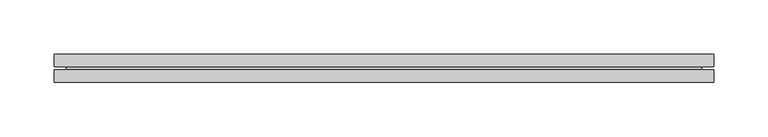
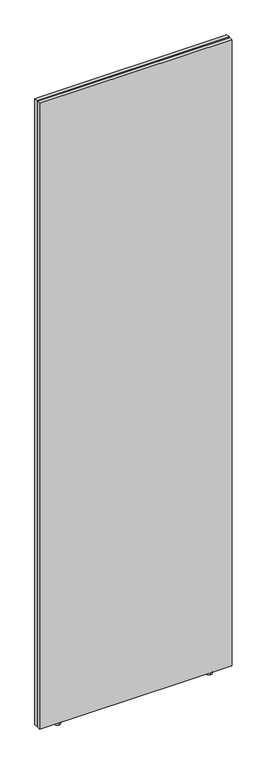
"""IFC4 building model written with IfcOpenShell, lengths in millimetres: furniture geometry, Geiger_GeigerOneCasegoods_WallFrameStandardApplication : 24Wx1Dx82.5H."""

import ifcopenshell
import ifcopenshell.guid

model = None  # the IFC model being written
_history = None  # IfcOwnerHistory: only IFC2X3 demands one
_inside = {}  # id of a spatial element -> (the spatial element, [elements in it])
_under = {}  # id of a project, library or spatial element -> (it, [spatial elements below it])
_declared = {}  # id of a project -> (the project, [libraries it declares])
_typed = {}  # id of a type object -> (the type object, [elements of that type])
_made_of = {}  # id of a material, layer set ... -> (it, [elements and type objects made of it])


def new_model(schema):
    """Start an empty IFC model of exactly this schema.

    Asked for "IFC4X3", IfcOpenShell would pick the latest addendum, in which some entities
    have other attributes; the version numbers below select the first issue.
    IFC2X3 requires an IfcOwnerHistory on every rooted entity: one is made here for all.
    """
    global model, _history
    if schema == "IFC4X3":
        model = ifcopenshell.file(schema_version=(4, 3, 0, 0))
    else:
        model = ifcopenshell.file(schema=schema)
    _inside.clear()
    _under.clear()
    _declared.clear()
    _typed.clear()
    _made_of.clear()
    _history = None
    if model.schema == "IFC2X3":
        org = make("IfcOrganization", Name="unknown")
        user = make(
            "IfcPersonAndOrganization",
            ThePerson=make("IfcPerson", FamilyName="unknown"),
            TheOrganization=org,
        )
        app = make(
            "IfcApplication",
            ApplicationDeveloper=org,
            Version="unknown",
            ApplicationFullName="unknown",
            ApplicationIdentifier="unknown",
        )
        _history = make(
            "IfcOwnerHistory",
            OwningUser=user,
            OwningApplication=app,
            ChangeAction="ADDED",
            CreationDate=0,
        )
    return model


def make(cls, **values):
    """One entity of the class cls with the attributes given. An attribute that is None is left unset."""
    return model.create_entity(
        cls, **{name: value for name, value in values.items() if value is not None}
    )


def rooted(cls, **values):
    """An entity with a GlobalId (a new one), such as an element, a storey or a relation."""
    return make(cls, GlobalId=ifcopenshell.guid.new(), OwnerHistory=_history, **values)


def si_unit(unit_type, name, prefix=None):
    """IfcSIUnit, for example si_unit("LENGTHUNIT", "METRE", prefix="MILLI")."""
    return make("IfcSIUnit", UnitType=unit_type, Prefix=prefix, Name=name)


def assignment(units):
    """IfcUnitAssignment: the units of a project."""
    return None if units is None else make("IfcUnitAssignment", Units=units)


def point(xyz):
    """IfcCartesianPoint."""
    return None if xyz is None else make("IfcCartesianPoint", Coordinates=xyz)


def direction(xyz):
    """IfcDirection."""
    return None if xyz is None else make("IfcDirection", DirectionRatios=xyz)


def frame(location, z_axis=None, x_axis=None):
    """IfcAxis2Placement3D, a coordinate frame: its origin and axes. An axis left out is left unset."""
    return make(
        "IfcAxis2Placement3D",
        Location=point(location),
        Axis=direction(z_axis),
        RefDirection=direction(x_axis),
    )


def origin():
    """The frame at (0, 0, 0) with its axes left unset."""
    return frame((0.0, 0.0, 0.0))


def place(relative_to, where):
    """IfcLocalPlacement: puts the frame where relative to a parent placement (None: the world)."""
    return make(
        "IfcLocalPlacement", PlacementRelTo=relative_to, RelativePlacement=where
    )


def context(
    kind, dimensions, precision=None, world=None, true_north=None, identifier=None
):
    """IfcGeometricRepresentationContext, for example the 3D "Model" context."""
    return make(
        "IfcGeometricRepresentationContext",
        ContextIdentifier=identifier,
        ContextType=kind,
        CoordinateSpaceDimension=dimensions,
        Precision=precision,
        WorldCoordinateSystem=world,
        TrueNorth=true_north,
    )


def project(units=None, contexts=None):
    """IfcProject with its units and contexts."""
    return rooted(
        "IfcProject",
        Name="project",
        RepresentationContexts=contexts,
        UnitsInContext=assignment(units),
    )


def spatial(cls, under=None, at=None, **own):
    """A site, building, storey or space (cls), placed at a placement, below another one or the project."""
    s = rooted(cls, ObjectPlacement=at, **own)
    if under is not None:
        _under.setdefault(under.id(), (under, []))[1].append(s)
    return s


def circle_curve(where, radius):
    """IfcCircle in the frame where."""
    return make("IfcCircle", Position=where, Radius=radius)


def ellipse_curve(where, semi_axis1, semi_axis2):
    """IfcEllipse in the frame where."""
    return make(
        "IfcEllipse", Position=where, SemiAxis1=semi_axis1, SemiAxis2=semi_axis2
    )


def trimmed(basis, trim1, trim2, sense, master):
    """IfcTrimmedCurve: the piece of a basis curve between two trims."""
    return make(
        "IfcTrimmedCurve",
        BasisCurve=basis,
        Trim1=trim1,
        Trim2=trim2,
        SenseAgreement=sense,
        MasterRepresentation=master,
    )


def faces_of(points, faces, orient=None, outer=None):
    """IfcFace entities. A face is a list of loops; a loop is a list of indices into points, from 0.

    orient and outer hold one flag for each loop. By default every Orientation is true, the
    first loop of a face is its IfcFaceOuterBound and the others are IfcFaceBound.
    """
    made = []
    for i, loops in enumerate(faces):
        bounds = []
        for j, loop in enumerate(loops):
            is_outer = j == 0 if outer is None else outer[i][j]
            bounds.append(
                make(
                    "IfcFaceOuterBound" if is_outer else "IfcFaceBound",
                    Bound=make("IfcPolyLoop", Polygon=[points[k] for k in loop]),
                    Orientation=True if orient is None else orient[i][j],
                )
            )
        made.append(make("IfcFace", Bounds=bounds))
    return made


def faceted_brep(points, faces, orient=None, outer=None, voids=None):
    """IfcFacetedBrep: a solid bounded by flat faces; with voids (closed shells), ...WithVoids."""
    shared = [point(p) for p in points]
    hull = make("IfcClosedShell", CfsFaces=faces_of(shared, faces, orient, outer))
    if voids is None:
        return make("IfcFacetedBrep", Outer=hull)
    return make(
        "IfcFacetedBrepWithVoids",
        Outer=hull,
        Voids=[
            make(cls, CfsFaces=faces_of(shared, fs, o, b)) for cls, fs, o, b in voids
        ],
    )


def shape(context_of_items, identifier, shape_type, items):
    """IfcShapeRepresentation: the items that make up one representation, for example the "Body"."""
    return make(
        "IfcShapeRepresentation",
        ContextOfItems=context_of_items,
        RepresentationIdentifier=identifier,
        RepresentationType=shape_type,
        Items=items,
    )


def source(mapping_origin, context_of_items, identifier, shape_type, items):
    """IfcRepresentationMap: a shape defined once, which mapped items show again and again."""
    return make(
        "IfcRepresentationMap",
        MappingOrigin=mapping_origin,
        MappedRepresentation=shape(context_of_items, identifier, shape_type, items),
    )


def transform(
    local_origin,
    x_axis=None,
    y_axis=None,
    z_axis=None,
    scale=None,
    scale2=None,
    scale3=None,
    uniform=True,
):
    """IfcCartesianTransformationOperator3D, or its non-uniform kind. x_axis, y_axis, z_axis: its Axis1, 2, 3."""
    if uniform:
        return make(
            "IfcCartesianTransformationOperator3D",
            Axis1=direction(x_axis),
            Axis2=direction(y_axis),
            LocalOrigin=point(local_origin),
            Scale=scale,
            Axis3=direction(z_axis),
        )
    return make(
        "IfcCartesianTransformationOperator3DnonUniform",
        Axis1=direction(x_axis),
        Axis2=direction(y_axis),
        LocalOrigin=point(local_origin),
        Scale=scale,
        Axis3=direction(z_axis),
        Scale2=scale2,
        Scale3=scale3,
    )


def mapped(mapping_source, mapping_target):
    """IfcMappedItem: shows the shape of a source again, moved by a transform."""
    return make(
        "IfcMappedItem", MappingSource=mapping_source, MappingTarget=mapping_target
    )


def made_of(thing, what):
    """Note that an element or type object is made of a material, layer set ...; save() writes the relation."""
    if what is not None:
        _made_of.setdefault(what.id(), (what, []))[1].append(thing)
    return thing


def element(
    cls,
    number,
    at=None,
    inside=None,
    cuts=None,
    type_object=None,
    material=None,
    context=None,
    identifier="Body",
    shape_type=None,
    held_by="IfcProductDefinitionShape",
    body=None,
    shapes=None,
    **own,
):
    """One element of the class cls, such as IfcWall. Its Tag is "e" and its number.

    at: its placement. inside: the storey or other place that contains it. cuts: it is an
    opening in that element (IfcRelVoidsElement). A single representation is given by context,
    identifier, shape_type and body (its items); several are given by shapes. held_by: the class
    of the entity that holds the representations. save() writes the other relations.
    """
    e = rooted(cls, Tag="e%d" % number, ObjectPlacement=at, **own)
    if body is not None:
        shapes = [shape(context, identifier, shape_type, body)]
    if shapes is not None:
        e.Representation = make(held_by, Representations=shapes)
    if inside is not None:
        _inside.setdefault(inside.id(), (inside, []))[1].append(e)
    if cuts is not None:
        rooted(
            "IfcRelVoidsElement", RelatingBuildingElement=cuts, RelatedOpeningElement=e
        )
    if type_object is not None:
        _typed.setdefault(type_object.id(), (type_object, []))[1].append(e)
    return made_of(e, material)


def aggregate(whole, parts):
    """IfcRelAggregates: a whole, such as a stair, and the parts it consists of."""
    return rooted("IfcRelAggregates", RelatingObject=whole, RelatedObjects=parts)


def save(model, path):
    """Write the relations noted so far, then the file.

    IfcRelAggregates (storeys below a building ...), IfcRelContainedInSpatialStructure (elements
    in a storey), IfcRelDefinesByType, IfcRelAssociatesMaterial and IfcRelDeclares: one each for
    every whole, place, type object, material and project.
    """
    for whole, parts in _under.values():
        aggregate(whole, parts)
    for where, things in _inside.values():
        rooted(
            "IfcRelContainedInSpatialStructure",
            RelatedElements=things,
            RelatingStructure=where,
        )
    for kind, things in _typed.values():
        rooted("IfcRelDefinesByType", RelatedObjects=things, RelatingType=kind)
    for what, things in _made_of.values():
        rooted("IfcRelAssociatesMaterial", RelatedObjects=things, RelatingMaterial=what)
    for by, libraries in _declared.values():
        rooted("IfcRelDeclares", RelatingContext=by, RelatedDefinitions=libraries)
    model.write(path)


def plane_surface(at):
    """IfcPlane: the flat surface through the origin of the frame at, square to its z axis."""
    return make("IfcPlane", Position=at)


def cylinder_surface(at, radius):
    """IfcCylindricalSurface: all points at the distance radius from the z axis of the frame at."""
    return make("IfcCylindricalSurface", Position=at, Radius=radius)


def revolved_surface(curve, axis_point, axis_direction):
    """IfcSurfaceOfRevolution: the curve turned about the line through axis_point along axis_direction."""
    return make(
        "IfcSurfaceOfRevolution",
        SweptCurve=make("IfcArbitraryOpenProfileDef", ProfileType="CURVE", Curve=curve),
        AxisPosition=make("IfcAxis1Placement", Location=point(axis_point), Axis=direction(axis_direction)),
    )


def advanced_brep(points, edges, surfaces, faces):
    """IfcAdvancedBrep: a solid bounded by faces that lie on surfaces and meet in shared edges.

    An edge is (start, end): straight between two places in points (the first is 0);
    or (start, end, curve); or (start, end, curve, False) where it runs against its curve.
    A face is (place in surfaces, loops), or (place, loops, False) where it looks against
    its surface's normal. A loop lists edges by number (the first is 1), with a minus sign
    where the edge is run from its end to its start. The first loop is the outer one.
    """
    corners = [point(p) for p in points]
    vertices = [make("IfcVertexPoint", VertexGeometry=c) for c in corners]
    made = []
    for start, end, *more in edges:
        made.append(
            make(
                "IfcEdgeCurve",
                EdgeStart=vertices[start],
                EdgeEnd=vertices[end],
                EdgeGeometry=more[0] if more else make("IfcPolyline", Points=[corners[start], corners[end]]),
                SameSense=more[1] if len(more) > 1 else True,
            )
        )
    hull = []
    for where, loops, *sense in faces:
        bounds = []
        for j, loop in enumerate(loops):
            ring = [make("IfcOrientedEdge", EdgeElement=made[abs(k) - 1], Orientation=k > 0) for k in loop]
            bounds.append(
                make(
                    "IfcFaceOuterBound" if j == 0 else "IfcFaceBound",
                    Bound=make("IfcEdgeLoop", EdgeList=ring),
                    Orientation=True,
                )
            )
        hull.append(make("IfcAdvancedFace", Bounds=bounds, FaceSurface=surfaces[where], SameSense=sense[0] if sense else True))
    return make("IfcAdvancedBrep", Outer=make("IfcClosedShell", CfsFaces=hull))


def furniture_a66f4f8e(model_context):
    return source(origin(), model_context, "Body", "SolidModel", [
        faceted_brep([(609.6, -26.0, 12.7), (609.6, -26.0, 2108.2), (0.0, -26.0, 2108.2), (0.0, -26.0, 12.7), (609.6, 0.0, 2108.2), (609.6, 0.0, 12.7), (0.0, 0.0, 12.7), (0.0, 0.0, 2108.2), (609.6, -14.5, 2108.2), (609.6, -14.5, 12.7), (598.6, -11.5, 2097.2), (598.6, -14.5, 2097.2), (598.6, -14.5, 23.7), (598.6, -11.5, 23.7), (609.6, -11.5, 2108.2), (609.6, -11.5, 12.7), (0.0, -14.5, 12.7), (11.0, -14.5, 23.7), (11.0, -11.5, 23.7), (0.0, -11.5, 12.7), (0.0, -14.5, 2108.2), (11.0, -14.5, 2097.2), (11.0, -11.5, 2097.2), (0.0, -11.5, 2108.2)], [[[0, 1, 2, 3]], [[4, 5, 6, 7]], [[8, 1, 0, 9]], [[10, 11, 12, 13]], [[4, 14, 15, 5]], [[9, 0, 3, 16]], [[13, 12, 17, 18]], [[5, 15, 19, 6]], [[16, 3, 2, 20]], [[18, 17, 21, 22]], [[6, 19, 23, 7]], [[1, 8, 20, 2]], [[8, 9, 16, 20], [12, 11, 21, 17]], [[11, 10, 22, 21]], [[15, 14, 23, 19], [10, 13, 18, 22]], [[14, 4, 7, 23]]]),
        advanced_brep(
        [(545.6, -13.0, 0.0), (545.6, -8.2612423, 0.0), (545.6, -17.7387577, 0.0), (545.6, -7.1362597, 9.4), (545.6, -18.8637403, 9.4), (545.6, -5.75, 9.4), (545.6, -20.25, 9.4), (545.6, -5.75, 12.7), (545.6, -20.25, 12.7), (545.6, -13.0, 12.7)],
        [
            (0, 1),
            (1, 2, circle_curve(frame((545.6, -13.0, 0.0), z_axis=(0.0, 0.0, -1.0), x_axis=(0.0, 1.0, 0.0)), 4.7387577)),
            (2, 0),
            (2, 1, circle_curve(frame((545.6, -13.0, 0.0), z_axis=(0.0, 0.0, -1.0), x_axis=(0.0, 1.0, 0.0)), 4.7387577)),
            (1, 3, circle_curve(frame((545.6, -8.2612423, 4.7673184), z_axis=(1.0, 0.0, 0.0), x_axis=(0.0, 1.0, 0.0)), 4.7673184)),
            (3, 4, circle_curve(frame((545.6, -13.0, 9.4), z_axis=(0.0, 0.0, -1.0), x_axis=(0.0, 1.0, 0.0)), 5.8637403)),
            (4, 2, circle_curve(frame((545.6, -17.7387577, 4.7673184), z_axis=(1.0, 0.0, 0.0), x_axis=(0.0, -1.0, 0.0)), 4.7673184)),
            (4, 3, circle_curve(frame((545.6, -13.0, 9.4), z_axis=(0.0, 0.0, -1.0), x_axis=(0.0, 1.0, 0.0)), 5.8637403)),
            (3, 5),
            (5, 6, circle_curve(frame((545.6, -13.0, 9.4), z_axis=(0.0, 0.0, -1.0), x_axis=(0.0, 1.0, 0.0)), 7.25)),
            (6, 4),
            (6, 5, circle_curve(frame((545.6, -13.0, 9.4), z_axis=(0.0, 0.0, -1.0), x_axis=(0.0, 1.0, 0.0)), 7.25)),
            (5, 7),
            (7, 8, circle_curve(frame((545.6, -13.0, 12.7), z_axis=(0.0, 0.0, -1.0), x_axis=(0.0, 1.0, 0.0)), 7.25)),
            (8, 6),
            (8, 7, circle_curve(frame((545.6, -13.0, 12.7), z_axis=(0.0, 0.0, -1.0), x_axis=(0.0, 1.0, 0.0)), 7.25)),
            (7, 9),
            (9, 8),
        ],
        [
            plane_surface(frame((545.6, -13.0, 0.0), z_axis=(0.0, 0.0, -1.0), x_axis=(0.0, 1.0, 0.0))),
            revolved_surface(trimmed(ellipse_curve(frame((545.6, -8.2612423, 4.7673184), z_axis=(-1.0, 0.0, 0.0), x_axis=(0.0, 1.0, 0.0)), 4.7673184, 4.7673184), [point((545.6, -7.1362597, 9.4))], [point((545.6, -8.2612423, 0.0))], True, "CARTESIAN"), (545.6, -13.0, 0.0), (0.0, 0.0, -1.0)),
            plane_surface(frame((545.6, -13.0, 9.4), z_axis=(0.0, 0.0, -1.0), x_axis=(0.0, 1.0, 0.0))),
            cylinder_surface(frame((545.6, -13.0, 0.0), z_axis=(0.0, 0.0, -1.0), x_axis=(0.0, 1.0, 0.0)), 7.25),
            plane_surface(frame((545.6, -13.0, 12.7), z_axis=(0.0, 0.0, 1.0), x_axis=(0.0, 1.0, 0.0))),
        ],
        [
            (0, [[1, 2, 3]]),
            (0, [[-3, 4, -1]]),
            (1, [[-2, 5, 6, 7]]),
            (1, [[-4, -7, 8, -5]]),
            (2, [[-6, 9, 10, 11]]),
            (2, [[-8, -11, 12, -9]]),
            (3, [[-10, 13, 14, 15]]),
            (3, [[-12, -15, 16, -13]]),
            (4, [[-14, 17, 18]]),
            (4, [[-16, -18, -17]]),
        ],
    ),
        advanced_brep(
        [(64.0, -17.7387577, 0.0), (64.0, -8.2612423, 0.0), (64.0, -13.0, 0.0), (64.0, -18.8637403, 9.4), (64.0, -7.1362597, 9.4), (64.0, -20.25, 9.4), (64.0, -5.75, 9.4), (64.0, -20.25, 12.7), (64.0, -5.75, 12.7), (64.0, -13.0, 12.7)],
        [
            (0, 1, circle_curve(frame((64.0, -13.0, 0.0), z_axis=(0.0, 0.0, -1.0), x_axis=(0.0, 1.0, 0.0)), 4.7387577)),
            (1, 2),
            (2, 0),
            (1, 0, circle_curve(frame((64.0, -13.0, 0.0), z_axis=(0.0, 0.0, -1.0), x_axis=(0.0, 1.0, 0.0)), 4.7387577)),
            (3, 4, circle_curve(frame((64.0, -13.0, 9.4), z_axis=(0.0, 0.0, -1.0), x_axis=(0.0, 1.0, 0.0)), 5.8637403)),
            (4, 1, circle_curve(frame((64.0, -8.2612423, 4.7673184), z_axis=(-1.0, 0.0, 0.0), x_axis=(0.0, 1.0, 0.0)), 4.7673184)),
            (0, 3, circle_curve(frame((64.0, -17.7387577, 4.7673184), z_axis=(-1.0, 0.0, 0.0), x_axis=(0.0, -1.0, 0.0)), 4.7673184)),
            (4, 3, circle_curve(frame((64.0, -13.0, 9.4), z_axis=(0.0, 0.0, -1.0), x_axis=(0.0, 1.0, 0.0)), 5.8637403)),
            (5, 6, circle_curve(frame((64.0, -13.0, 9.4), z_axis=(0.0, 0.0, -1.0), x_axis=(0.0, 1.0, 0.0)), 7.25)),
            (6, 4),
            (3, 5),
            (6, 5, circle_curve(frame((64.0, -13.0, 9.4), z_axis=(0.0, 0.0, -1.0), x_axis=(0.0, 1.0, 0.0)), 7.25)),
            (7, 8, circle_curve(frame((64.0, -13.0, 12.7), z_axis=(0.0, 0.0, -1.0), x_axis=(0.0, 1.0, 0.0)), 7.25)),
            (8, 6),
            (5, 7),
            (8, 7, circle_curve(frame((64.0, -13.0, 12.7), z_axis=(0.0, 0.0, -1.0), x_axis=(0.0, 1.0, 0.0)), 7.25)),
            (9, 8),
            (7, 9),
        ],
        [
            plane_surface(frame((64.0, -13.0, 0.0), z_axis=(0.0, 0.0, -1.0), x_axis=(0.0, 1.0, 0.0))),
            revolved_surface(trimmed(ellipse_curve(frame((64.0, -8.2612423, 4.7673184), z_axis=(1.0, 0.0, 0.0), x_axis=(0.0, 1.0, 0.0)), 4.7673184, 4.7673184), [point((64.0, -8.2612423, 0.0))], [point((64.0, -7.1362597, 9.4))], True, "CARTESIAN"), (64.0, -13.0, 0.0), (0.0, 0.0, 1.0)),
            plane_surface(frame((64.0, -13.0, 9.4), z_axis=(0.0, 0.0, -1.0), x_axis=(0.0, 1.0, 0.0))),
            cylinder_surface(frame((64.0, -13.0, 0.0), z_axis=(0.0, 0.0, 1.0), x_axis=(0.0, 1.0, 0.0)), 7.25),
            plane_surface(frame((64.0, -13.0, 12.7), z_axis=(0.0, 0.0, 1.0), x_axis=(0.0, 1.0, 0.0))),
        ],
        [
            (0, [[1, 2, 3]]),
            (0, [[4, -3, -2]]),
            (1, [[5, 6, -1, 7]]),
            (1, [[8, -7, -4, -6]]),
            (2, [[9, 10, -5, 11]]),
            (2, [[12, -11, -8, -10]]),
            (3, [[13, 14, -9, 15]]),
            (3, [[16, -15, -12, -14]]),
            (4, [[17, -13, 18]]),
            (4, [[-18, -16, -17]]),
        ],
    ),
    ])


if __name__ == "__main__":
    model = new_model("IFC4")
    model_context = context("Model", 3, world=origin())
    ifc_project = project(units=[si_unit("LENGTHUNIT", "METRE", prefix="MILLI")], contexts=[model_context])
    site = spatial("IfcSite", under=ifc_project)
    building = spatial("IfcBuilding", under=site)
    placement = place(None, origin())
    furniture_shape = furniture_a66f4f8e(model_context)
    element("IfcFurniture", 1, ObjectType="Geiger_GeigerOneCasegoods_WallFrameStandardApplication : 24Wx1Dx82.5H", at=placement, inside=building, context=model_context, shape_type="MappedRepresentation", body=[
        mapped(furniture_shape, transform((0.0, 0.0, 0.0), x_axis=(1.0, 0.0, 0.0), y_axis=(0.0, 1.0, 0.0), z_axis=(0.0, 0.0, 1.0))),
    ])
    save(model, "model.ifc")
